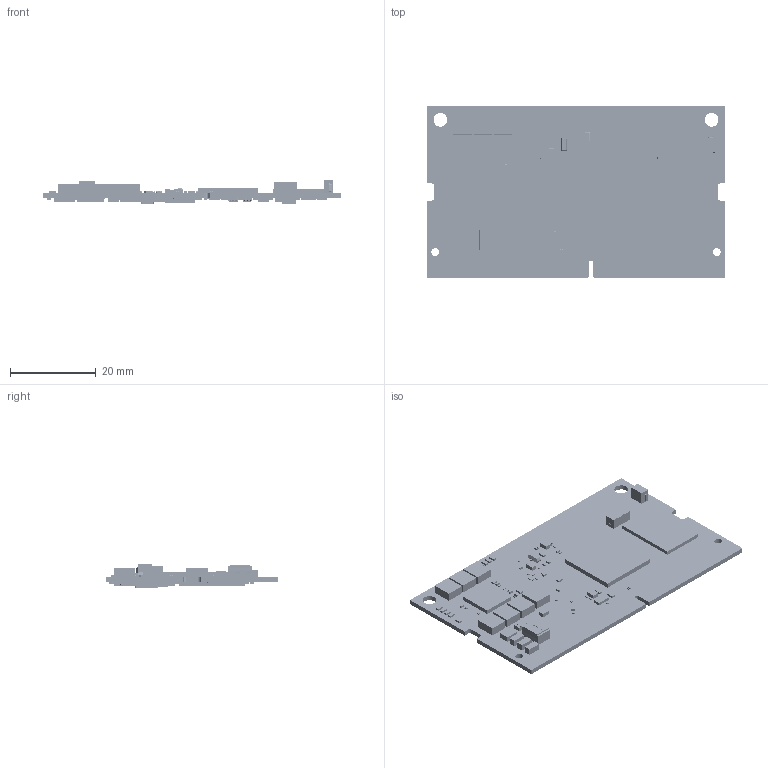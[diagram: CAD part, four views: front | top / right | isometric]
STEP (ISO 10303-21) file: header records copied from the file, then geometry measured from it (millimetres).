
FILE_DESCRIPTION(('Open CASCADE Model'),'2;1');
FILE_NAME('Open CASCADE Shape Model','2022-09-09T09:35:44',('Author'),( 'Open CASCADE'),'Open CASCADE STEP processor 7.5','Open CASCADE 7.5' ,'Unknown');
FILE_SCHEMA(('AUTOMOTIVE_DESIGN { 1 0 10303 214 1 1 1 1 }'));
Length unit declared in the file: millimetre
Products named in the file (420): PCB; Board; Open CASCADE STEP translator 7.5 1.1.1; R388; 6238421616; 6291297360; Extruded; Q3; 6238430256; L32; 6238428096; 6335865440; R387; CAP0201 (0603); R386; D8; DIOM2513X10N-SOD323; 6335862560; R385; 6238423696; 6291296720; C13; U10; 6335862400; R321; R281; R280; 6238426256; R279; R277; 6238420736; R95; R93; R91; L31; C789; C788; CAP0402; 6291294720; C752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
Assembly tree (835 placements, depth 6):
  PCB
    Board
      Open CASCADE STEP translator 7.5 1.1.1
    R388
      6238421616
      6291297360
        Extruded
    Q3
      6238430256
    L32
      6238428096
      6335865440
        Extruded
    R387
      CAP0201 (0603)
    R386
      CAP0201 (0603)
    D8
      DIOM2513X10N-SOD323
      6335862560
        Extruded
    R385
      6238423696
      6291296720
        Extruded
    C13
      CAP0201 (0603)
    U10
      6335862400
        Extruded
    R321
      CAP0201 (0603)
    R281
      CAP0201 (0603)
    R280
      6238426256
      6291296720
        Extruded
    R279
      CAP0201 (0603)
    R277
      6238420736
      6291297360
        Extruded
    R95
      CAP0201 (0603)
    R93
      CAP0201 (0603)
    R91
      CAP0201 (0603)
    L31
      6238428096
      6335865440
        Extruded
    C789
      CAP0201 (0603)
    C788
      CAP0402
      6291294720
        Extruded
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Bounding box: 69.6 x 40 x 5.64 mm (x, y, z)
Volume: 4592.3 mm3; surface area: 10358.3 mm2
Topology: 478 solids, 968 shells, 18505 faces, 46067 edges, 27684 vertices
Faces by surface type: plane 9637, cylinder 6748, bspline 1682, sphere 434, torus 4
Full cylindrical faces by diameter (mm): 0.392 x3, 1.8 x2, 3.2 x2
Entity records: 87822 total; most frequent: CARTESIAN_POINT 18918, DIRECTION 11341, ORIENTED_EDGE 10888, EDGE_CURVE 5660, LINE 4123, VECTOR 4123, VERTEX_POINT 3748, AXIS2_PLACEMENT_3D 3609
